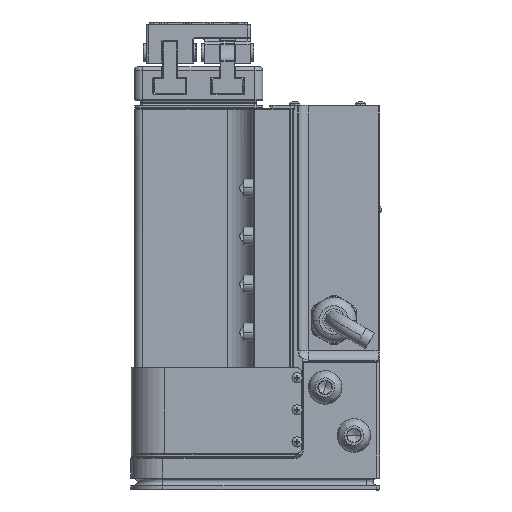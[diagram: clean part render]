
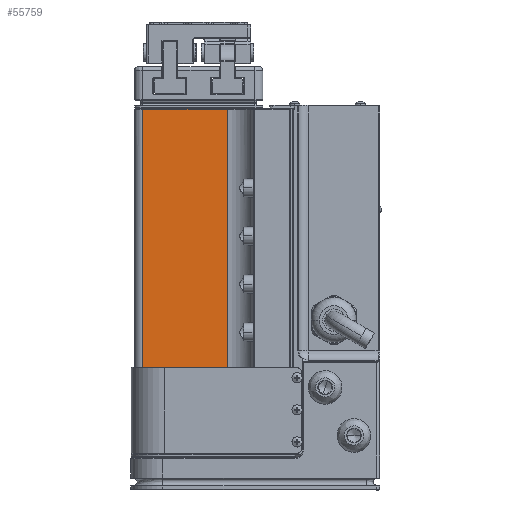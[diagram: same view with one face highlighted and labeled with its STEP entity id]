
A CAD part, left-side view. The second image highlights one B-rep face of the part: STEP entity #55759.
In plain terms, the highlighted planar face has unit normal (-1, 0, 0).
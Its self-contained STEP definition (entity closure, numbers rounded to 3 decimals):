
#4296 = EDGE_LOOP ( 'NONE', ( #94497, #33789, #81288, #67094 ) ) ;
#10940 = CARTESIAN_POINT ( 'NONE',  ( -35., 12.8, 57.3 ) ) ;
#12940 = LINE ( 'NONE', #41874, #63644 ) ;
#13243 = VERTEX_POINT ( 'NONE', #57142 ) ;
#13721 = LINE ( 'NONE', #44621, #87480 ) ;
#19635 = AXIS2_PLACEMENT_3D ( 'NONE', #90535, #21245, #22240 ) ;
#20738 = DIRECTION ( 'NONE',  ( 0., -1., 0. ) ) ;
#21245 = DIRECTION ( 'NONE',  ( -1., 0., 0. ) ) ;
#22240 = DIRECTION ( 'NONE',  ( 0., 0., 1. ) ) ;
#28225 = CARTESIAN_POINT ( 'NONE',  ( -35., -91.448, -32. ) ) ;
#29676 = DIRECTION ( 'NONE',  ( 0., 1., 0. ) ) ;
#30199 = LINE ( 'NONE', #45138, #69052 ) ;
#32466 = VERTEX_POINT ( 'NONE', #67661 ) ;
#33789 = ORIENTED_EDGE ( 'NONE', *, *, #34971, .T. ) ;
#34971 = EDGE_CURVE ( 'NONE', #49809, #32466, #13721, .T. ) ;
#41874 = CARTESIAN_POINT ( 'NONE',  ( -35., 39.25, 0. ) ) ;
#44621 = CARTESIAN_POINT ( 'NONE',  ( -35., -91.448, 57.3 ) ) ;
#45138 = CARTESIAN_POINT ( 'NONE',  ( -35., 12.8, 0. ) ) ;
#49809 = VERTEX_POINT ( 'NONE', #10940 ) ;
#55759 = ADVANCED_FACE ( 'NONE', ( #66635 ), #67621, .T. ) ;
#57142 = CARTESIAN_POINT ( 'NONE',  ( -35., 12.8, -32. ) ) ;
#63644 = VECTOR ( 'NONE', #88208, 1000. ) ;
#66635 = FACE_OUTER_BOUND ( 'NONE', #4296, .T. ) ;
#66662 = EDGE_CURVE ( 'NONE', #32466, #68344, #12940, .T. ) ;
#67094 = ORIENTED_EDGE ( 'NONE', *, *, #73104, .T. ) ;
#67621 = PLANE ( 'NONE',  #19635 ) ;
#67661 = CARTESIAN_POINT ( 'NONE',  ( -35., 39.25, 57.3 ) ) ;
#68104 = DIRECTION ( 'NONE',  ( 0., 0., 1. ) ) ;
#68344 = VERTEX_POINT ( 'NONE', #75666 ) ;
#69052 = VECTOR ( 'NONE', #68104, 1000. ) ;
#73104 = EDGE_CURVE ( 'NONE', #68344, #13243, #96505, .T. ) ;
#73200 = EDGE_CURVE ( 'NONE', #13243, #49809, #30199, .T. ) ;
#75666 = CARTESIAN_POINT ( 'NONE',  ( -35., 39.25, -32. ) ) ;
#81288 = ORIENTED_EDGE ( 'NONE', *, *, #66662, .T. ) ;
#87480 = VECTOR ( 'NONE', #29676, 1000. ) ;
#88057 = VECTOR ( 'NONE', #20738, 1000. ) ;
#88208 = DIRECTION ( 'NONE',  ( 0., 0., -1. ) ) ;
#90535 = CARTESIAN_POINT ( 'NONE',  ( -35., -91.448, 0. ) ) ;
#94497 = ORIENTED_EDGE ( 'NONE', *, *, #73200, .T. ) ;
#96505 = LINE ( 'NONE', #28225, #88057 ) ;
